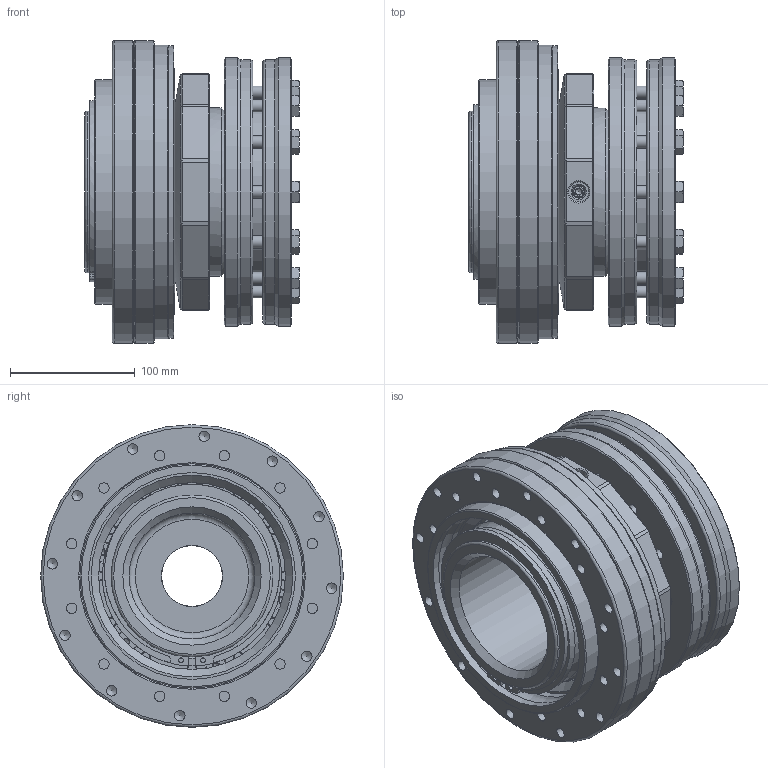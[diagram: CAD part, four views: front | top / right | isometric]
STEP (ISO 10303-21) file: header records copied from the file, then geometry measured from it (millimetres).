
FILE_DESCRIPTION(/* description */ ('Unknown','CAx-IF Rec.Pracs.---Representation and Presentation of Product Manufacturing Information (PMI)---4.0---2014-10-13','CAx-IF Rec.Pracs.---3D Tessellated Geometry---0.4---2014-09-14','2;1'),/* implementation_level */ '2;1');
FILE_NAME(/* name */ 'SKB 3000',/* time_stamp */ '2023-10-06T09:48:49+02:00',/* author */ ('Unknown'),/* organization */ ('Unknown'),/* preprocessor_version */ 'ST-DEVELOPER v18.102',/* originating_system */ 'Solid Edge',/* authorisation */ 'Unknown');
FILE_SCHEMA (('AP242_MANAGED_MODEL_BASED_3D_ENGINEERING_MIM_LF { 1 0 10303 442 1 1 4 }'));
Length unit declared in the file: millimetre
Products named in the file (1): SKB 3000
Bounding box: 172.4 x 243 x 243 mm (x, y, z)
Volume: 4253711.4 mm3; surface area: 639687.9 mm2
Topology: 1 solids, 40 shells, 954 faces, 2542 edges, 1631 vertices
Faces by surface type: plane 348, cone 262, cylinder 232, sphere 64, torus 48
Full cylindrical faces by diameter (mm): 4 x2, 6.647 x6, 6.8 x2, 8 x30, 8.376 x38, 8.5 x6, 10 x14, 10.5 x12, 14 x24, 15.6 x12, 16 x8, 49 x1, 101 x1, 126 x1, 129.8 x1, 130 x2, 130.1 x1, 133.457 x1, 135 x2, 144 x2, 144.923 x1, 150 x1, 165 x2, 166 x2, 180 x2, 185 x1, 212 x2, 215.3 x2, 234.225 x1, 236 x2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
Entity records: 25316 total; most frequent: CARTESIAN_POINT 5424, DIRECTION 4196, ORIENTED_EDGE 3506, AXIS2_PLACEMENT_3D 1883, EDGE_CURVE 1753, FACE_BOUND 1522, EDGE_LOOP 1464, VERTEX_POINT 1313
